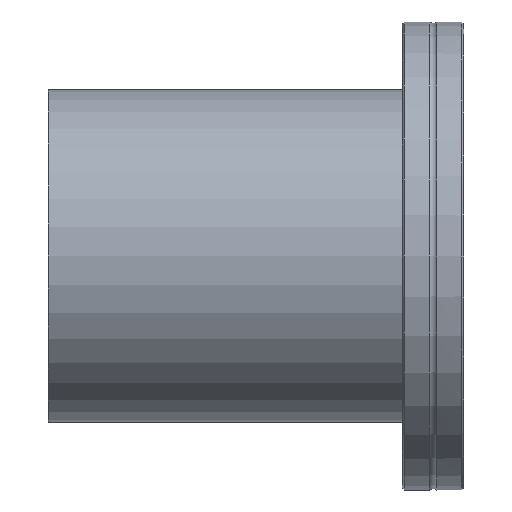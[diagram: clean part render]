
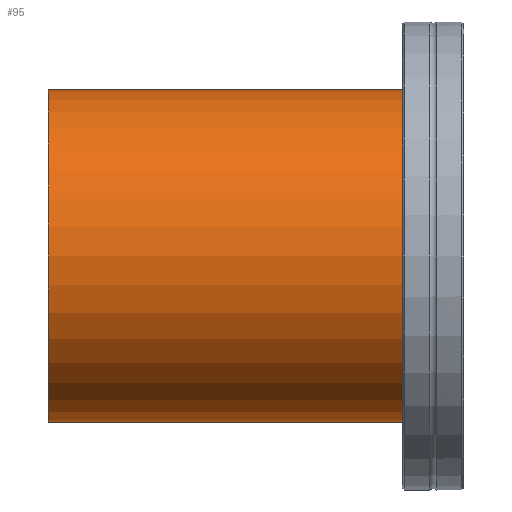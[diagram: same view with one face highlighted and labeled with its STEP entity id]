
A CAD part, front view. The second image highlights one B-rep face of the part: STEP entity #95.
In plain terms, the highlighted cylindrical face has radius 54 mm (diameter 108 mm), a full revolution.
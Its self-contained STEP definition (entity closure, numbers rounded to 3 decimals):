
#68=CARTESIAN_POINT('',(-135.,0.,0.));
#69=DIRECTION('',(1.0,0.,0.));
#70=DIRECTION('',(0.0,0.0,1.0));
#71=AXIS2_PLACEMENT_3D('',#68,#69,#70);
#72=CYLINDRICAL_SURFACE('',#71,54.0);
#73=CARTESIAN_POINT('',(-11.,0.,-54.));
#74=VERTEX_POINT('',#73);
#75=CARTESIAN_POINT('',(-11.,0.,0.));
#76=DIRECTION('',(1.0,0.0,0.0));
#77=DIRECTION('',(0.0,0.0,1.0));
#78=AXIS2_PLACEMENT_3D('',#75,#76,#77);
#79=CIRCLE('',#78,54.0);
#80=EDGE_CURVE('',#74,#74,#79,.T.);
#81=ORIENTED_EDGE('',*,*,#80,.F.);
#82=EDGE_LOOP('',(#81));
#83=FACE_OUTER_BOUND('',#82,.T.);
#84=CARTESIAN_POINT('',(-135.,0.,-54.));
#85=VERTEX_POINT('',#84);
#86=CARTESIAN_POINT('',(-135.,0.,0.));
#87=DIRECTION('',(-1.0,0.0,0.0));
#88=DIRECTION('',(0.0,0.0,1.0));
#89=AXIS2_PLACEMENT_3D('',#86,#87,#88);
#90=CIRCLE('',#89,54.0);
#91=EDGE_CURVE('',#85,#85,#90,.T.);
#92=ORIENTED_EDGE('',*,*,#91,.F.);
#93=EDGE_LOOP('',(#92));
#94=FACE_BOUND('',#93,.T.);
#95=ADVANCED_FACE('',(#83,#94),#72,.T.);
